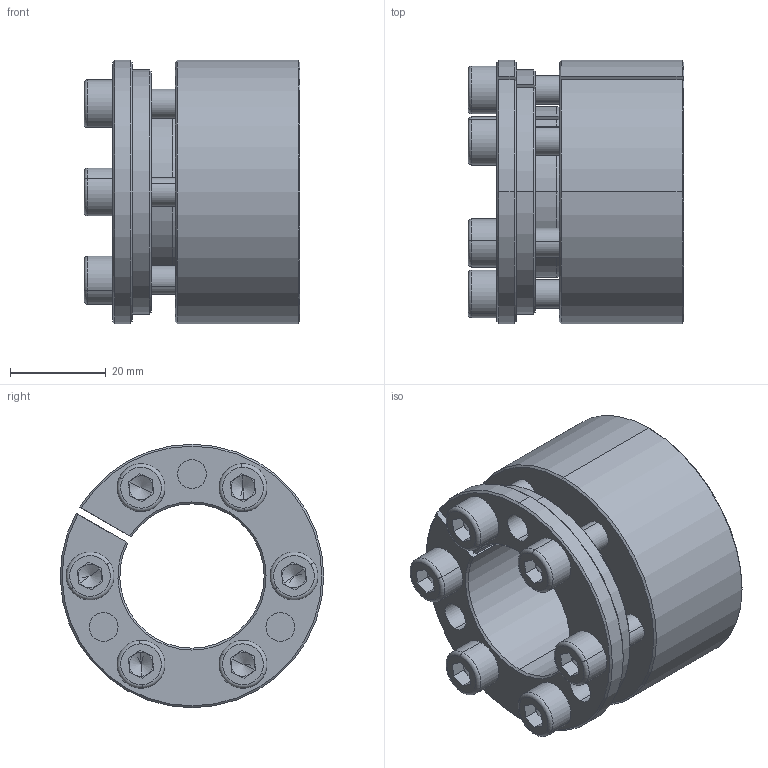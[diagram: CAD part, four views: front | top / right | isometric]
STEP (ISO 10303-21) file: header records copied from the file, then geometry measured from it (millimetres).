
FILE_DESCRIPTION (( 'STEP AP214' ), '1' );
FILE_NAME ('PL-H2 30-55.STEP', '2022-07-25T01:53:07', ( '' ), ( '' ), 'SwSTEP 2.0', 'SolidWorks 2022', '' );
FILE_SCHEMA (( 'AUTOMOTIVE_DESIGN' ));
Length unit declared in the file: millimetre
Products named in the file (1): PL-H2 30-55
Bounding box: 45 x 54.91 x 54.92 mm (x, y, z)
Volume: 55213.4 mm3; surface area: 22162.2 mm2
Topology: 1 solids, 1 shells, 239 faces, 587 edges, 362 vertices
Faces by surface type: plane 98, cylinder 69, cone 60, torus 12
Entity records: 7084 total; most frequent: DIRECTION 1304, CARTESIAN_POINT 1249, ORIENTED_EDGE 1150, EDGE_CURVE 575, AXIS2_PLACEMENT_3D 513, VERTEX_POINT 362, EDGE_LOOP 281, LINE 278
